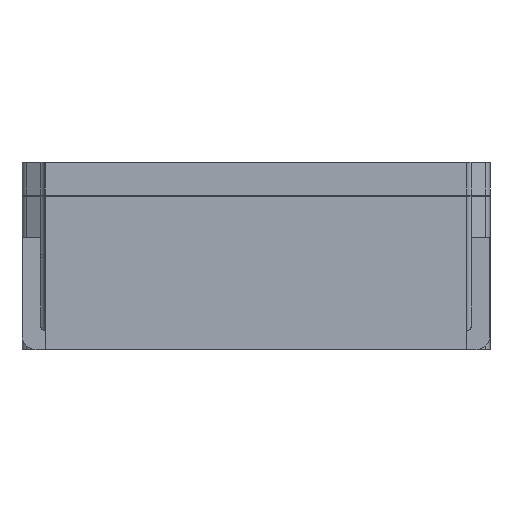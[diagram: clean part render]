
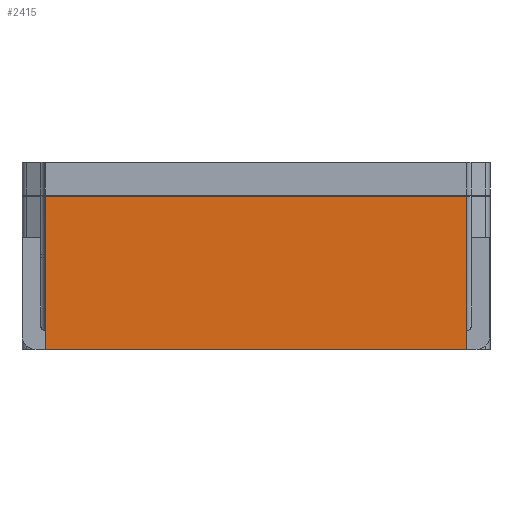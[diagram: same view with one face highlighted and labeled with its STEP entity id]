
A CAD part, front view. The second image highlights one B-rep face of the part: STEP entity #2415.
In plain terms, the highlighted planar face has unit normal (0, -1, 0).
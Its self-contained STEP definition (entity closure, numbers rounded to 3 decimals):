
#72 = EDGE_CURVE ( 'NONE', #755, #3361, #2491, .T. ) ;
#97 = ORIENTED_EDGE ( 'NONE', *, *, #2890, .F. ) ;
#103 = VECTOR ( 'NONE', #830, 1000. ) ;
#494 = PLANE ( 'NONE',  #2951 ) ;
#512 = VECTOR ( 'NONE', #1980, 1000. ) ;
#570 = EDGE_CURVE ( 'NONE', #3361, #2286, #594, .T. ) ;
#594 = LINE ( 'NONE', #1673, #103 ) ;
#664 = ORIENTED_EDGE ( 'NONE', *, *, #72, .F. ) ;
#748 = ORIENTED_EDGE ( 'NONE', *, *, #954, .F. ) ;
#755 = VERTEX_POINT ( 'NONE', #1940 ) ;
#830 = DIRECTION ( 'NONE',  ( 1., 0., 0. ) ) ;
#904 = LINE ( 'NONE', #3105, #512 ) ;
#954 = EDGE_CURVE ( 'NONE', #2286, #2412, #904, .T. ) ;
#1066 = CARTESIAN_POINT ( 'NONE',  ( -2.25, -2.5, -0.1 ) ) ;
#1086 = VECTOR ( 'NONE', #1752, 1000. ) ;
#1673 = CARTESIAN_POINT ( 'NONE',  ( -2.25, -2.5, 1.54 ) ) ;
#1752 = DIRECTION ( 'NONE',  ( -1., 0., 0. ) ) ;
#1855 = DIRECTION ( 'NONE',  ( 0., 1., 0. ) ) ;
#1940 = CARTESIAN_POINT ( 'NONE',  ( -2.25, -2.5, -0.1 ) ) ;
#1980 = DIRECTION ( 'NONE',  ( 0., 0., -1. ) ) ;
#2027 = LINE ( 'NONE', #2566, #1086 ) ;
#2286 = VERTEX_POINT ( 'NONE', #3464 ) ;
#2412 = VERTEX_POINT ( 'NONE', #2930 ) ;
#2415 = ADVANCED_FACE ( 'NONE', ( #3216 ), #494, .F. ) ;
#2448 = EDGE_LOOP ( 'NONE', ( #97, #748, #2757, #664 ) ) ;
#2491 = LINE ( 'NONE', #3330, #2944 ) ;
#2566 = CARTESIAN_POINT ( 'NONE',  ( -2.25, -2.5, -0.1 ) ) ;
#2757 = ORIENTED_EDGE ( 'NONE', *, *, #570, .F. ) ;
#2890 = EDGE_CURVE ( 'NONE', #2412, #755, #2027, .T. ) ;
#2930 = CARTESIAN_POINT ( 'NONE',  ( 2.25, -2.5, -0.1 ) ) ;
#2944 = VECTOR ( 'NONE', #3043, 1000. ) ;
#2951 = AXIS2_PLACEMENT_3D ( 'NONE', #1066, #1855, #3253 ) ;
#3043 = DIRECTION ( 'NONE',  ( 0., 0., 1. ) ) ;
#3105 = CARTESIAN_POINT ( 'NONE',  ( 2.25, -2.5, 0.72 ) ) ;
#3216 = FACE_OUTER_BOUND ( 'NONE', #2448, .T. ) ;
#3253 = DIRECTION ( 'NONE',  ( 0., 0., 1. ) ) ;
#3330 = CARTESIAN_POINT ( 'NONE',  ( -2.25, -2.5, 0.72 ) ) ;
#3361 = VERTEX_POINT ( 'NONE', #3434 ) ;
#3434 = CARTESIAN_POINT ( 'NONE',  ( -2.25, -2.5, 1.54 ) ) ;
#3464 = CARTESIAN_POINT ( 'NONE',  ( 2.25, -2.5, 1.54 ) ) ;
